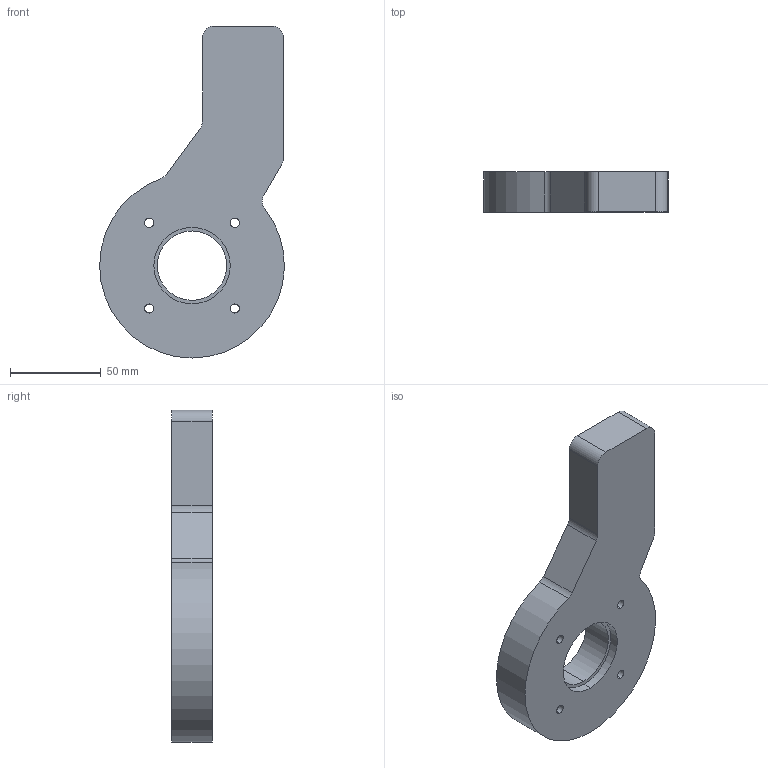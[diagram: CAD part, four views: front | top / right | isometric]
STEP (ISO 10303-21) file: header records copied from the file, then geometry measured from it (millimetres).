
FILE_DESCRIPTION (( 'STEP AP203' ), '1' );
FILE_NAME ('Base arm piece rev1.STEP', '2026-03-12T23:44:13', ( '' ), ( '' ), 'SwSTEP 2.0', 'SolidWorks 2025', '' );
FILE_SCHEMA (( 'CONFIG_CONTROL_DESIGN' ));
Length unit declared in the file: millimetre
Products named in the file (1): Base arm piece rev1
Bounding box: 101.59 x 22.23 x 182.57 mm (x, y, z)
Volume: 236247.5 mm3; surface area: 39845.6 mm2
Topology: 1 solids, 1 shells, 37 faces, 93 edges, 62 vertices
Faces by surface type: cylinder 26, plane 11
Entity records: 1236 total; most frequent: DIRECTION 221, CARTESIAN_POINT 193, ORIENTED_EDGE 186, EDGE_CURVE 93, AXIS2_PLACEMENT_3D 90, VERTEX_POINT 62, CIRCLE 52, EDGE_LOOP 51
